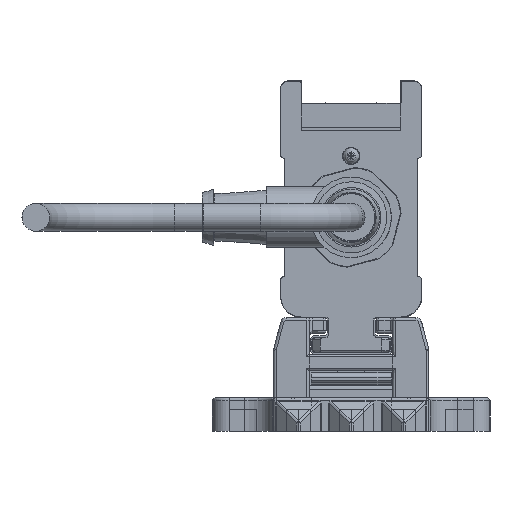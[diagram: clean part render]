
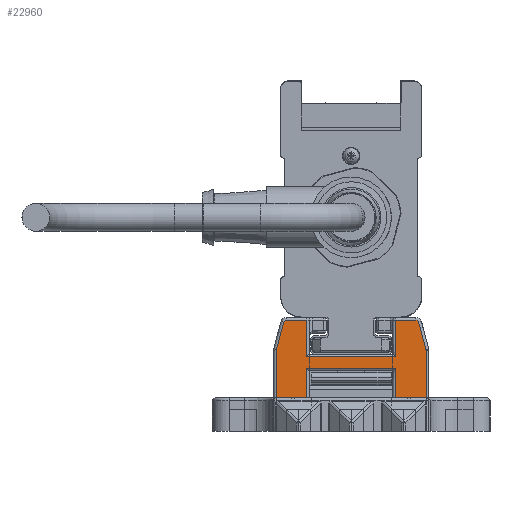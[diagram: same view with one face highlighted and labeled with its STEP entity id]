
A CAD part, left-side view. The second image highlights one B-rep face of the part: STEP entity #22960.
In plain terms, the highlighted planar face has unit normal (-1, 0, 0).
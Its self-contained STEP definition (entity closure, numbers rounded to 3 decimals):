
#22960=ADVANCED_FACE('', (#22970), #22980, .T.);
#93730=AXIS2_PLACEMENT_3D('Ax2Pl3d', #93740, #93750, #93760);
#93970=AXIS2_PLACEMENT_3D('Ax2Pl3d', #93980, #93990, #94000);
#98850=AXIS2_PLACEMENT_3D('Ax2Pl3d', #98860, #98870, #98880);
#103930=AXIS2_PLACEMENT_3D('Ax2Pl3d', #103940, #103950, #103960);
#113610=AXIS2_PLACEMENT_3D('Ax2Pl3d', #113620, #113630, #113640);
#322720=CARTESIAN_POINT('', (-747.669,-1286.345,
331.37));
#93740=CARTESIAN_POINT('HicPkt', (-747.669,-1285.379,
331.111));
#322730=CARTESIAN_POINT('', (-747.669,-1286.379,
331.111));
#322740=CARTESIAN_POINT('', (-747.669,-1285.037,336.255)
);
#322760=CARTESIAN_POINT('', (-747.669,-1285.037,336.255)
);
#322790=CARTESIAN_POINT('', (-747.669,-1284.554,
336.625));
#93980=CARTESIAN_POINT('HicPkt', (-747.669,-1284.554,
336.125));
#323010=CARTESIAN_POINT('', (-747.669,-1286.379,
322.625));
#323020=CARTESIAN_POINT('', (-747.669,-1280.881,
322.625));
#323030=CARTESIAN_POINT('', (-747.669,-1280.881,
322.625));
#323110=CARTESIAN_POINT('', (-747.669,-1264.881,
322.625));
#323120=CARTESIAN_POINT('', (-747.669,-1259.383,
322.625));
#323130=CARTESIAN_POINT('', (-747.669,-1259.383,
322.625));
#98860=CARTESIAN_POINT('HicPkt', (-747.669,-1261.209,
336.125));
#325600=CARTESIAN_POINT('', (-747.669,-1260.726,
336.255));
#325610=CARTESIAN_POINT('', (-747.669,-1261.209,
336.625));
#325620=CARTESIAN_POINT('', (-747.669,-1280.881,
330.025));
#325630=CARTESIAN_POINT('', (-747.669,-1264.881,330.025)
);
#325640=CARTESIAN_POINT('', (-747.669,-1280.881,
330.025));
#325800=CARTESIAN_POINT('', (-747.669,-1280.881,
328.005));
#325810=CARTESIAN_POINT('', (-747.669,-1264.881,
328.005));
#325820=CARTESIAN_POINT('', (-747.669,-1264.881,
328.005));
#325830=CARTESIAN_POINT('', (-747.669,-1280.881,
328.005));
#325850=CARTESIAN_POINT('', (-747.669,-1264.881,
322.625));
#325860=CARTESIAN_POINT('', (-747.669,-1264.881,330.025)
);
#325870=CARTESIAN_POINT('', (-747.669,-1264.881,
336.625));
#326720=CARTESIAN_POINT('', (-747.669,-1264.881,
336.625));
#326730=CARTESIAN_POINT('', (-747.669,-1260.726,
336.255));
#326740=CARTESIAN_POINT('', (-747.669,-1259.417,
331.37));
#326930=CARTESIAN_POINT('', (-747.669,-1259.383,
331.111));
#326940=CARTESIAN_POINT('', (-747.669,-1259.383,
331.111));
#103940=CARTESIAN_POINT('HicPkt', (-747.669,-1260.383,
331.111));
#327750=CARTESIAN_POINT('', (-747.669,-1286.379,
331.111));
#113620=CARTESIAN_POINT('HicPkt', (-747.669,-1284.554,
336.625));
#329550=CARTESIAN_POINT('', (-747.669,-1280.881,
336.625));
#329560=CARTESIAN_POINT('', (-747.669,-1280.881,
336.625));
#329570=CARTESIAN_POINT('', (-747.669,-1280.881,
336.625));
#369010=CIRCLE('Circle', #93730, 1.);
#369050=CIRCLE('Circle', #93970, 0.5);
#369630=CIRCLE('Circle', #98850, 0.5);
#370160=CIRCLE('Circle', #103930, 1.);
#93750=DIRECTION('Axis', (-1.,0.,0.)
);
#93760=DIRECTION('RefDirection', (0.,
0.,-1.));
#517530=DIRECTION('', (0.,0.259,
0.966));
#93990=DIRECTION('Axis', (-1.,0.,0.)
);
#94000=DIRECTION('RefDirection', (0.,
0.,-1.));
#517640=DIRECTION('', (0.,1.,0.));
#517680=DIRECTION('', (0.,1.,0.));
#98870=DIRECTION('Axis', (1.,0.,
0.));
#98880=DIRECTION('RefDirection', (0.,
0.,-1.));
#518870=DIRECTION('', (0.,-1.,0.));
#518970=DIRECTION('', (0.,1.,0.));
#518980=DIRECTION('', (0.,0.,1.));
#519000=DIRECTION('', (0.,0.,-1.));
#519010=DIRECTION('', (0.,0.,-1.));
#519440=DIRECTION('', (0.,-1.,0.));
#519450=DIRECTION('', (0.,-0.259,0.966));
#519540=DIRECTION('', (0.,0.,1.));
#103950=DIRECTION('Axis', (1.,0.,
0.));
#103960=DIRECTION('RefDirection', (0.,
0.,-1.));
#519910=DIRECTION('', (0.,0.,1.));
#113630=DIRECTION('Axis', (-1.,0.,
0.));
#113640=DIRECTION('RefDirection', (0.,
0.,-1.));
#520750=DIRECTION('', (0.,1.,0.));
#520760=DIRECTION('', (0.,0.,1.));
#562200=EDGE_CURVE('', #562210, #562190, #369010, .T.);
#562260=EDGE_CURVE('', #562190, #562240, #562270, .T.);
#562330=EDGE_CURVE('', #562240, #562320, #369050, .T.);
#562780=EDGE_CURVE('', #562770, #562790, #562800, .T.);
#562940=EDGE_CURVE('', #562930, #562950, #562960, .T.);
#567300=EDGE_CURVE('', #567310, #567320, #369630, .T.);
#567350=EDGE_CURVE('', #567360, #567370, #567380, .T.);
#567720=EDGE_CURVE('', #567700, #567730, #567740, .T.);
#567770=EDGE_CURVE('', #562790, #567700, #567780, .T.);
#567810=EDGE_CURVE('', #567730, #562930, #567820, .T.);
#567830=EDGE_CURVE('', #567840, #567360, #567850, .T.);
#569670=EDGE_CURVE('', #567320, #567840, #569680, .T.);
#569740=EDGE_CURVE('', #569750, #567310, #569760, .T.);
#570180=EDGE_CURVE('', #562950, #570190, #570200, .T.);
#570220=EDGE_CURVE('', #570190, #569750, #370160, .T.);
#571930=EDGE_CURVE('', #562770, #562210, #571940, .T.);
#575740=EDGE_CURVE('', #562320, #575750, #575760, .T.);
#575770=EDGE_CURVE('', #567370, #575750, #575780, .T.);
#683540=EDGE_LOOP('Edge_loop', (#683550,#683560,#683570,#683580,#683590,
#683600,#683610,#683620,#683630,#683640,#683650,#683660,#683670,#683680,
#683690,#683700,#683710,#683720));
#22970=FACE_OUTER_BOUND('Face_outer_bound', #683540, .T.);
#562270=LINE('Line', #322760, #765320);
#562800=LINE('Line', #323020, #765430);
#562960=LINE('Line', #323120, #765470);
#567380=LINE('Line', #325620, #766660);
#567740=LINE('Line', #325810, #766760);
#567780=LINE('Line', #325830, #766770);
#567820=LINE('Line', #325850, #766790);
#567850=LINE('Line', #325860, #766800);
#569680=LINE('Line', #326720, #767230);
#569760=LINE('Line', #326730, #767240);
#570200=LINE('Line', #326930, #767330);
#571940=LINE('Line', #327750, #767700);
#575760=LINE('Line', #329550, #768540);
#575780=LINE('Line', #329570, #768550);
#683550=ORIENTED_EDGE('', *, *, #575740, .T.);
#683560=ORIENTED_EDGE('', *, *, #575770, .F.);
#683570=ORIENTED_EDGE('', *, *, #567350, .F.);
#683580=ORIENTED_EDGE('', *, *, #567830, .F.);
#683590=ORIENTED_EDGE('', *, *, #569670, .F.);
#683600=ORIENTED_EDGE('', *, *, #567300, .F.);
#683610=ORIENTED_EDGE('', *, *, #569740, .F.);
#683620=ORIENTED_EDGE('', *, *, #570220, .F.);
#683630=ORIENTED_EDGE('', *, *, #570180, .F.);
#683640=ORIENTED_EDGE('', *, *, #562940, .F.);
#683650=ORIENTED_EDGE('', *, *, #567810, .F.);
#683660=ORIENTED_EDGE('', *, *, #567720, .F.);
#683670=ORIENTED_EDGE('', *, *, #567770, .F.);
#683680=ORIENTED_EDGE('', *, *, #562780, .F.);
#683690=ORIENTED_EDGE('', *, *, #571930, .T.);
#683700=ORIENTED_EDGE('', *, *, #562200, .T.);
#683710=ORIENTED_EDGE('', *, *, #562260, .T.);
#683720=ORIENTED_EDGE('', *, *, #562330, .T.);
#22980=PLANE('Plane', #113610);
#765320=VECTOR('', #517530, 5.057);
#765430=VECTOR('', #517640, 5.498);
#765470=VECTOR('', #517680, 5.498);
#766660=VECTOR('', #518870, 16.);
#766760=VECTOR('', #518970, 16.);
#766770=VECTOR('', #518980, 5.38);
#766790=VECTOR('', #519000, 5.38);
#766800=VECTOR('', #519010, 6.6);
#767230=VECTOR('', #519440, 3.672);
#767240=VECTOR('', #519450, 5.057);
#767330=VECTOR('', #519540, 8.486);
#767700=VECTOR('', #519910, 8.486);
#768540=VECTOR('', #520750, 3.672);
#768550=VECTOR('', #520760, 6.6);
#562190=VERTEX_POINT('', #322720);
#562210=VERTEX_POINT('', #322730);
#562240=VERTEX_POINT('', #322740);
#562320=VERTEX_POINT('', #322790);
#562770=VERTEX_POINT('', #323010);
#562790=VERTEX_POINT('', #323030);
#562930=VERTEX_POINT('', #323110);
#562950=VERTEX_POINT('', #323130);
#567310=VERTEX_POINT('', #325600);
#567320=VERTEX_POINT('', #325610);
#567360=VERTEX_POINT('', #325630);
#567370=VERTEX_POINT('', #325640);
#567700=VERTEX_POINT('', #325800);
#567730=VERTEX_POINT('', #325820);
#567840=VERTEX_POINT('', #325870);
#569750=VERTEX_POINT('', #326740);
#570190=VERTEX_POINT('', #326940);
#575750=VERTEX_POINT('', #329560);
